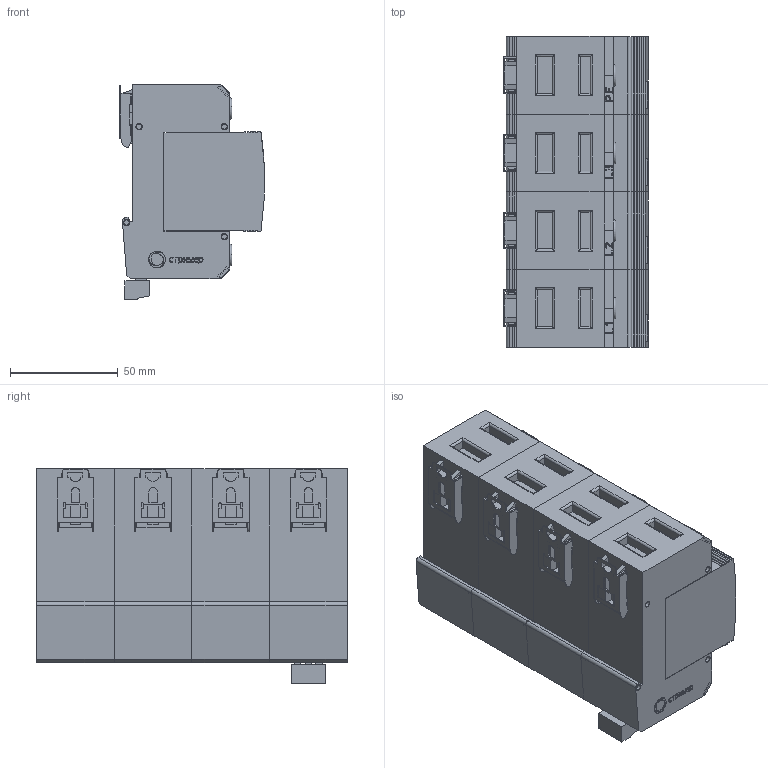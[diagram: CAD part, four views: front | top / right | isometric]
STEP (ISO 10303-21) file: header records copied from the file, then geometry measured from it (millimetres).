
FILE_DESCRIPTION(('TFLEX Exchange Step'),'2;1');
FILE_NAME('X2\041004400442\X0\.114_102.stp', '2022-08-30T14:01:53+03:00',('Ivan Berdigulov'),('Unknown organisation'),'TFLEX Exchange 2019.2','T-FLEX CAD','Unknown authorisation');
FILE_SCHEMA( ('AUTOMOTIVE_DESIGN { 1 0 10303 214 1 1 1 1 }') );
Length unit declared in the file: millimetre
Products named in the file (2): 0
Assembly tree (1 placements, depth 2):
  0
    0
Bounding box: 66.98 x 144.1 x 99.61 mm (x, y, z)
Volume: 692563.4 mm3; surface area: 141180.8 mm2
Topology: 124 solids, 124 shells, 1943 faces, 4954 edges, 3307 vertices
Faces by surface type: plane 1282, cylinder 389, bspline 258, torus 11, cone 3
Full cylindrical faces by diameter (mm): 1.6 x3, 2.5 x48, 3 x51, 4 x3
Entity records: 81752 total; most frequent: CARTESIAN_POINT 36188, ORIENTED_EDGE 9694, DIRECTION 8277, EDGE_CURVE 4847, VERTEX_POINT 3307, VECTOR 3229, LINE 3229, AXIS2_PLACEMENT_3D 2524
